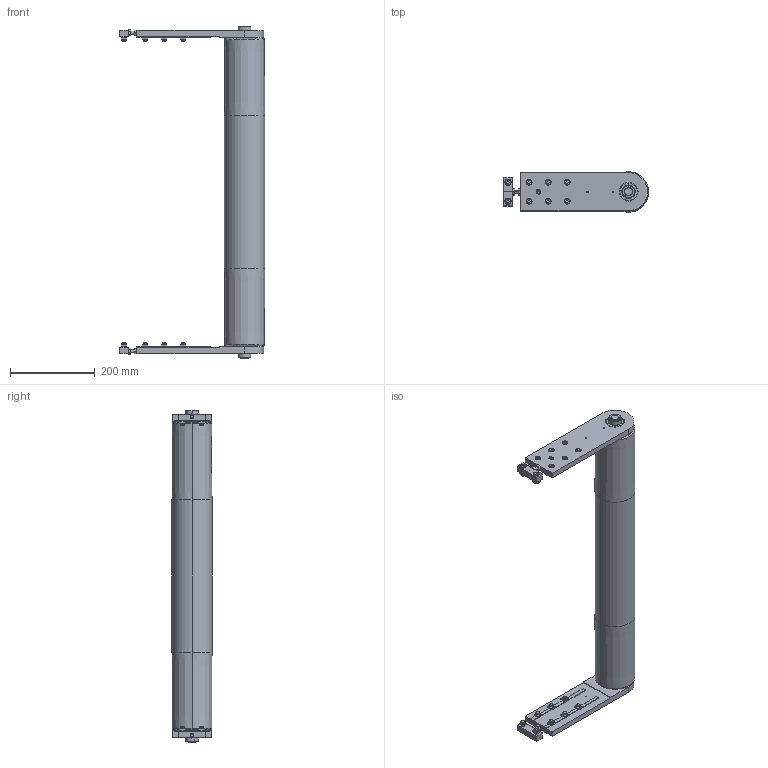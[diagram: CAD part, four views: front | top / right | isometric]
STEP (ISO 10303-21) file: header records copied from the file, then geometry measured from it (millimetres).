
FILE_DESCRIPTION (( 'STEP AP203' ), '1' );
FILE_NAME ('084.095.KI.700.STEP', '2015-07-16T08:56:17', ( '' ), ( '' ), 'SwSTEP 2.0', 'SolidWorks 2012', '' );
FILE_SCHEMA (( 'CONFIG_CONTROL_DESIGN' ));
Length unit declared in the file: millimetre
Products named in the file (1): 084.095.KI.700
Bounding box: 343.5 x 95 x 785 mm (x, y, z)
Surface area: 403056.9 mm2 (no closed solid volume)
Topology: 0 solids, 65 shells, 628 faces, 1888 edges, 1316 vertices
Faces by surface type: plane 400, cylinder 102, torus 68, cone 52, sphere 4, bspline 2
Entity records: 22253 total; most frequent: CARTESIAN_POINT 5355, DIRECTION 3562, ORIENTED_EDGE 3122, EDGE_CURVE 1880, VERTEX_POINT 1312, AXIS2_PLACEMENT_3D 1279, LINE 1004, VECTOR 1004
